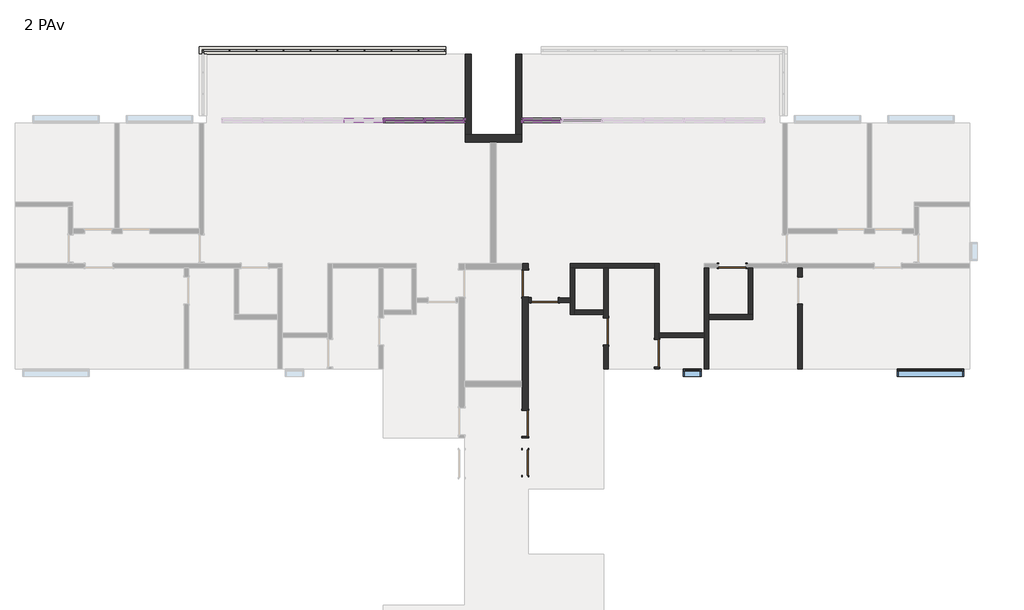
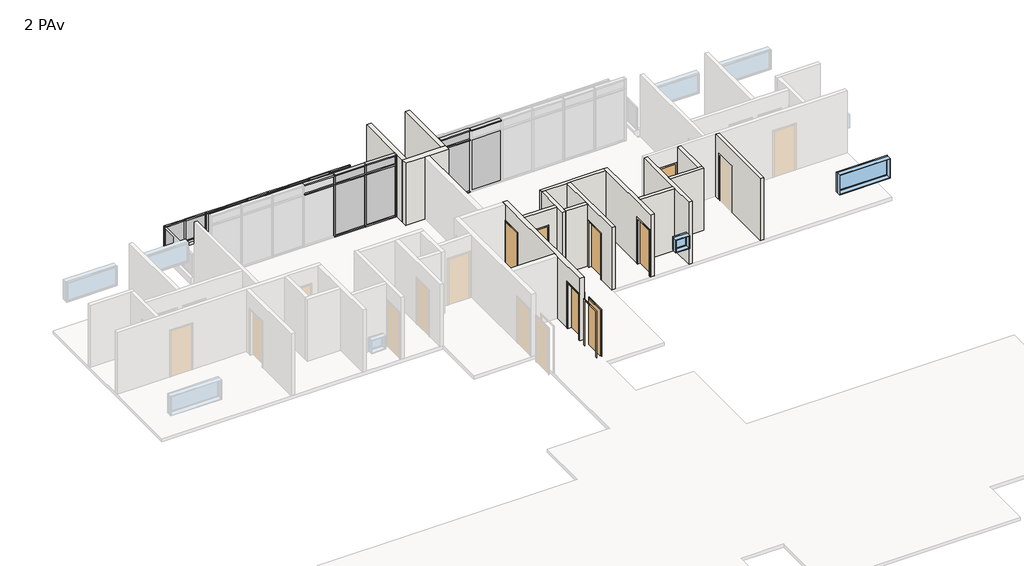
# One storey, part 5 of 6: 50 members, 17 plates, 16 walls, 7 doors, 2 windows.
"""IFC4 building model written with IfcOpenShell, lengths in millimetres."""

from ifc_helpers import new_model, si_unit, frame, origin, place, context, project, spatial, polyline, outline, extrude, faceted_brep, transform, mapped, element, save
from components import door_85_x_210_ba3adec2, door_85_x_210_7675e995, door_90_x_210_2c83007d, door_90_x_210_ee935524, door_90_x_210_565370b3, montante_retangular_50_mm_quadrado_4acded50, montante_retangular_50_mm_quadrado_237d7072, montante_retangular_50_mm_quadrado_84e40a56, montante_retangular_50_mm_quadrado_3d152aff, montante_retangular_50_mm_quadrado_a01005a4, montante_retangular_50_x_150_mm_6217edde, montante_retangular_50_x_150_mm_a22249d7, montante_retangular_50_x_150_mm_6225e4e3, montante_retangular_50_x_150_mm_662c37b1, montante_retangular_50_x_150_mm_567eccab, montante_retangular_50_x_150_mm_1ca2bba2, montante_retangular_50_x_150_mm_6abf4531, montante_retangular_50_x_150_mm_0a8c3443, painel_do_sistema_57ceaf50, painel_do_sistema_ab0ed719, painel_do_sistema_0196877a, painel_do_sistema_1ecb5f42, painel_do_sistema_49db1829, painel_do_sistema_5ea5287b, painel_do_sistema_7730abee, window_0610_x_0610_mm_b5667cc9, window_220_x_90_cea65aae

model = new_model("IFC4")

# Units and contexts
model_context = context("Model", 3, world=origin())
ifc_project = project(units=[si_unit("LENGTHUNIT", "METRE", prefix="MILLI")], contexts=[model_context])

# Site, building, storey
site = spatial("IfcSite", under=ifc_project)
building = spatial("IfcBuilding", under=site)
storey = spatial("IfcBuildingStorey", under=building, Name="2 PAv", Elevation=6000.0)

# Doors
placement = place(None, origin())
door_85_x_210_shape = door_85_x_210_ba3adec2(model_context)
element("IfcDoor", 1, ObjectType="M_Descarga simples : 85 x 210", at=placement, inside=storey, context=model_context, shape_type="MappedRepresentation", body=[
    mapped(door_85_x_210_shape, transform((23.7734258, 2728.6614625, 6000.0), x_axis=(0.0, 1.0, 0.0), y_axis=(-1.0, 0.0, 0.0), z_axis=(0.0, 0.0, 1.0))),
])
door_85_x_210_2_shape = door_85_x_210_7675e995(model_context)
element("IfcDoor", 2, ObjectType="M_Descarga simples : 85 x 210", at=placement, inside=storey, context=model_context, shape_type="MappedRepresentation", body=[
    mapped(door_85_x_210_2_shape, transform((23.7734258, 4028.6614625, 6000.0), x_axis=(0.0, -1.0, 0.0), y_axis=(1.0, 0.0, 0.0), z_axis=(0.0, 0.0, 1.0))),
])
door_90_x_210_shape = door_90_x_210_2c83007d(model_context)
element("IfcDoor", 3, ObjectType="M_Descarga simples : 90 x 210", at=placement, inside=storey, context=model_context, shape_type="MappedRepresentation", body=[
    mapped(door_90_x_210_shape, transform((23.7734258, 8673.2521762, 6000.0), x_axis=(0.0, 1.0, 0.0), y_axis=(-1.0, 0.0, 0.0), z_axis=(0.0, 0.0, 1.0))),
])
door_90_x_210_2_shape = door_90_x_210_ee935524(model_context)
element("IfcDoor", 4, ObjectType="M_Descarga simples : 90 x 210", at=placement, inside=storey, context=model_context, shape_type="MappedRepresentation", body=[
    mapped(door_90_x_210_2_shape, transform((673.7734258, 8118.6614625, 6000.0), x_axis=(-1.0, 0.0, 0.0), y_axis=(0.0, -1.0, 0.0), z_axis=(0.0, 0.0, 1.0))),
])
element("IfcDoor", 5, ObjectType="M_Descarga simples : 90 x 210", at=placement, inside=storey, context=model_context, shape_type="MappedRepresentation", body=[
    mapped(door_90_x_210_2_shape, transform((2698.7734258, 7083.6614625, 6000.0), x_axis=(0.0, -1.0, 0.0), y_axis=(1.0, 0.0, 0.0), z_axis=(0.0, 0.0, 1.0))),
])
element("IfcDoor", 6, ObjectType="M_Descarga simples : 90 x 210", at=placement, inside=storey, context=model_context, shape_type="MappedRepresentation", body=[
    mapped(door_90_x_210_2_shape, transform((4388.7734258, 6358.6614625, 6000.0), x_axis=(0.0, -1.0, 0.0), y_axis=(1.0, 0.0, 0.0), z_axis=(0.0, 0.0, 1.0))),
])
door_90_x_210_3_shape = door_90_x_210_565370b3(model_context)
element("IfcDoor", 7, ObjectType="M_Descarga simples : 90 x 210", at=placement, inside=storey, context=model_context, shape_type="MappedRepresentation", body=[
    mapped(door_90_x_210_3_shape, transform((6883.7734258, 9258.6614625, 6000.0), x_axis=(1.0, 0.0, 0.0), y_axis=(0.0, 1.0, 0.0), z_axis=(0.0, 0.0, 1.0))),
])

# Members
montante_retangular_50_mm_quadrado_shape = montante_retangular_50_mm_quadrado_4acded50(model_context)
element("IfcMember", 8, ObjectType="Montante retangular : 50 mm Quadrado", at=placement, inside=storey, context=model_context, shape_type="MappedRepresentation", body=[
    mapped(montante_retangular_50_mm_quadrado_shape, transform((-10616.2265742, 16403.6614625, 7150.0), x_axis=(0.0, 0.0, 1.0), y_axis=(0.0, 1.0, 0.0), z_axis=(-1.0, 0.0, 0.0))),
])
element("IfcMember", 9, ObjectType="Montante retangular : 50 mm Quadrado", at=placement, inside=storey, context=model_context, shape_type="MappedRepresentation", body=[
    mapped(montante_retangular_50_mm_quadrado_shape, transform((-3481.2265742, 16403.6614625, 7150.0), x_axis=(0.0, 0.0, 1.0), y_axis=(0.0, 1.0, 0.0), z_axis=(-1.0, 0.0, 0.0))),
])
montante_retangular_50_mm_quadrado_2_shape = montante_retangular_50_mm_quadrado_237d7072(model_context)
element("IfcMember", 10, ObjectType="Montante retangular : 50 mm Quadrado", at=placement, inside=storey, context=model_context, shape_type="MappedRepresentation", body=[
    mapped(montante_retangular_50_mm_quadrado_2_shape, transform((-4376.2265742, 16403.6614625, 7150.0), x_axis=(0.0, 0.0, 1.0), y_axis=(0.0, 1.0, 0.0), z_axis=(-1.0, 0.0, 0.0))),
])
element("IfcMember", 11, ObjectType="Montante retangular : 50 mm Quadrado", at=placement, inside=storey, context=model_context, shape_type="MappedRepresentation", body=[
    mapped(montante_retangular_50_mm_quadrado_2_shape, transform((-5271.2265742, 16403.6614625, 7150.0), x_axis=(0.0, 0.0, 1.0), y_axis=(0.0, 1.0, 0.0), z_axis=(-1.0, 0.0, 0.0))),
])
element("IfcMember", 12, ObjectType="Montante retangular : 50 mm Quadrado", at=placement, inside=storey, context=model_context, shape_type="MappedRepresentation", body=[
    mapped(montante_retangular_50_mm_quadrado_2_shape, transform((-6166.2265742, 16403.6614625, 7150.0), x_axis=(0.0, 0.0, 1.0), y_axis=(0.0, 1.0, 0.0), z_axis=(-1.0, 0.0, 0.0))),
])
element("IfcMember", 13, ObjectType="Montante retangular : 50 mm Quadrado", at=placement, inside=storey, context=model_context, shape_type="MappedRepresentation", body=[
    mapped(montante_retangular_50_mm_quadrado_2_shape, transform((-7061.2265742, 16403.6614625, 7150.0), x_axis=(0.0, 0.0, 1.0), y_axis=(0.0, 1.0, 0.0), z_axis=(-1.0, 0.0, 0.0))),
])
element("IfcMember", 14, ObjectType="Montante retangular : 50 mm Quadrado", at=placement, inside=storey, context=model_context, shape_type="MappedRepresentation", body=[
    mapped(montante_retangular_50_mm_quadrado_2_shape, transform((-7956.2265742, 16403.6614625, 7150.0), x_axis=(0.0, 0.0, 1.0), y_axis=(0.0, 1.0, 0.0), z_axis=(-1.0, 0.0, 0.0))),
])
element("IfcMember", 15, ObjectType="Montante retangular : 50 mm Quadrado", at=placement, inside=storey, context=model_context, shape_type="MappedRepresentation", body=[
    mapped(montante_retangular_50_mm_quadrado_2_shape, transform((-8851.2265742, 16403.6614625, 7150.0), x_axis=(0.0, 0.0, 1.0), y_axis=(0.0, 1.0, 0.0), z_axis=(-1.0, 0.0, 0.0))),
])
element("IfcMember", 16, ObjectType="Montante retangular : 50 mm Quadrado", at=placement, inside=storey, context=model_context, shape_type="MappedRepresentation", body=[
    mapped(montante_retangular_50_mm_quadrado_2_shape, transform((-9746.2265742, 16403.6614625, 7150.0), x_axis=(0.0, 0.0, 1.0), y_axis=(0.0, 1.0, 0.0), z_axis=(-1.0, 0.0, 0.0))),
])
element("IfcMember", 17, ObjectType="Montante retangular : 50 mm Quadrado", at=placement, inside=storey, context=model_context, shape_type="MappedRepresentation", body=[
    mapped(montante_retangular_50_mm_quadrado_shape, transform((-2661.2265742, 16403.6614625, 6150.0), x_axis=(0.0, 0.0, -1.0), y_axis=(0.0, 1.0, 0.0), z_axis=(1.0, 0.0, 0.0))),
])
element("IfcMember", 18, ObjectType="Montante retangular : 50 mm Quadrado", at=placement, inside=storey, context=model_context, shape_type="MappedRepresentation", body=[
    mapped(montante_retangular_50_mm_quadrado_shape, transform((-9796.2265742, 16403.6614625, 6150.0), x_axis=(0.0, 0.0, -1.0), y_axis=(0.0, 1.0, 0.0), z_axis=(1.0, 0.0, 0.0))),
])
element("IfcMember", 19, ObjectType="Montante retangular : 50 mm Quadrado", at=placement, inside=storey, context=model_context, shape_type="MappedRepresentation", body=[
    mapped(montante_retangular_50_mm_quadrado_2_shape, transform((-3531.2265742, 16403.6614625, 6150.0), x_axis=(0.0, 0.0, -1.0), y_axis=(0.0, 1.0, 0.0), z_axis=(1.0, 0.0, 0.0))),
])
element("IfcMember", 20, ObjectType="Montante retangular : 50 mm Quadrado", at=placement, inside=storey, context=model_context, shape_type="MappedRepresentation", body=[
    mapped(montante_retangular_50_mm_quadrado_2_shape, transform((-4426.2265742, 16403.6614625, 6150.0), x_axis=(0.0, 0.0, -1.0), y_axis=(0.0, 1.0, 0.0), z_axis=(1.0, 0.0, 0.0))),
])
element("IfcMember", 21, ObjectType="Montante retangular : 50 mm Quadrado", at=placement, inside=storey, context=model_context, shape_type="MappedRepresentation", body=[
    mapped(montante_retangular_50_mm_quadrado_2_shape, transform((-5321.2265742, 16403.6614625, 6150.0), x_axis=(0.0, 0.0, -1.0), y_axis=(0.0, 1.0, 0.0), z_axis=(1.0, 0.0, 0.0))),
])
element("IfcMember", 22, ObjectType="Montante retangular : 50 mm Quadrado", at=placement, inside=storey, context=model_context, shape_type="MappedRepresentation", body=[
    mapped(montante_retangular_50_mm_quadrado_2_shape, transform((-6216.2265742, 16403.6614625, 6150.0), x_axis=(0.0, 0.0, -1.0), y_axis=(0.0, 1.0, 0.0), z_axis=(1.0, 0.0, 0.0))),
])
element("IfcMember", 23, ObjectType="Montante retangular : 50 mm Quadrado", at=placement, inside=storey, context=model_context, shape_type="MappedRepresentation", body=[
    mapped(montante_retangular_50_mm_quadrado_2_shape, transform((-7111.2265742, 16403.6614625, 6150.0), x_axis=(0.0, 0.0, -1.0), y_axis=(0.0, 1.0, 0.0), z_axis=(1.0, 0.0, 0.0))),
])
element("IfcMember", 24, ObjectType="Montante retangular : 50 mm Quadrado", at=placement, inside=storey, context=model_context, shape_type="MappedRepresentation", body=[
    mapped(montante_retangular_50_mm_quadrado_2_shape, transform((-8006.2265742, 16403.6614625, 6150.0), x_axis=(0.0, 0.0, -1.0), y_axis=(0.0, 1.0, 0.0), z_axis=(1.0, 0.0, 0.0))),
])
element("IfcMember", 25, ObjectType="Montante retangular : 50 mm Quadrado", at=placement, inside=storey, context=model_context, shape_type="MappedRepresentation", body=[
    mapped(montante_retangular_50_mm_quadrado_2_shape, transform((-8901.2265742, 16403.6614625, 6150.0), x_axis=(0.0, 0.0, -1.0), y_axis=(0.0, 1.0, 0.0), z_axis=(1.0, 0.0, 0.0))),
])
montante_retangular_50_mm_quadrado_3_shape = montante_retangular_50_mm_quadrado_84e40a56(model_context)
element("IfcMember", 26, ObjectType="Montante retangular : 50 mm Quadrado", at=placement, inside=storey, context=model_context, shape_type="MappedRepresentation", body=[
    mapped(montante_retangular_50_mm_quadrado_3_shape, transform((-3506.2265742, 16403.6614625, 6150.0), x_axis=(-1.0, 0.0, 0.0), y_axis=(0.0, 1.0, 0.0), z_axis=(0.0, 0.0, -1.0))),
])
element("IfcMember", 27, ObjectType="Montante retangular : 50 mm Quadrado", at=placement, inside=storey, context=model_context, shape_type="MappedRepresentation", body=[
    mapped(montante_retangular_50_mm_quadrado_3_shape, transform((-4401.2265742, 16403.6614625, 6150.0), x_axis=(-1.0, 0.0, 0.0), y_axis=(0.0, 1.0, 0.0), z_axis=(0.0, 0.0, -1.0))),
])
element("IfcMember", 28, ObjectType="Montante retangular : 50 mm Quadrado", at=placement, inside=storey, context=model_context, shape_type="MappedRepresentation", body=[
    mapped(montante_retangular_50_mm_quadrado_3_shape, transform((-5296.2265742, 16403.6614625, 6150.0), x_axis=(-1.0, 0.0, 0.0), y_axis=(0.0, 1.0, 0.0), z_axis=(0.0, 0.0, -1.0))),
])
element("IfcMember", 29, ObjectType="Montante retangular : 50 mm Quadrado", at=placement, inside=storey, context=model_context, shape_type="MappedRepresentation", body=[
    mapped(montante_retangular_50_mm_quadrado_3_shape, transform((-6191.2265742, 16403.6614625, 6150.0), x_axis=(-1.0, 0.0, 0.0), y_axis=(0.0, 1.0, 0.0), z_axis=(0.0, 0.0, -1.0))),
])
element("IfcMember", 30, ObjectType="Montante retangular : 50 mm Quadrado", at=placement, inside=storey, context=model_context, shape_type="MappedRepresentation", body=[
    mapped(montante_retangular_50_mm_quadrado_3_shape, transform((-7086.2265742, 16403.6614625, 6150.0), x_axis=(-1.0, 0.0, 0.0), y_axis=(0.0, 1.0, 0.0), z_axis=(0.0, 0.0, -1.0))),
])
element("IfcMember", 31, ObjectType="Montante retangular : 50 mm Quadrado", at=placement, inside=storey, context=model_context, shape_type="MappedRepresentation", body=[
    mapped(montante_retangular_50_mm_quadrado_3_shape, transform((-7981.2265742, 16403.6614625, 6150.0), x_axis=(-1.0, 0.0, 0.0), y_axis=(0.0, 1.0, 0.0), z_axis=(0.0, 0.0, -1.0))),
])
element("IfcMember", 32, ObjectType="Montante retangular : 50 mm Quadrado", at=placement, inside=storey, context=model_context, shape_type="MappedRepresentation", body=[
    mapped(montante_retangular_50_mm_quadrado_3_shape, transform((-8876.2265742, 16403.6614625, 6150.0), x_axis=(-1.0, 0.0, 0.0), y_axis=(0.0, 1.0, 0.0), z_axis=(0.0, 0.0, -1.0))),
])
element("IfcMember", 33, ObjectType="Montante retangular : 50 mm Quadrado", at=placement, inside=storey, context=model_context, shape_type="MappedRepresentation", body=[
    mapped(montante_retangular_50_mm_quadrado_3_shape, transform((-9771.2265742, 16403.6614625, 6150.0), x_axis=(-1.0, 0.0, 0.0), y_axis=(0.0, 1.0, 0.0), z_axis=(0.0, 0.0, -1.0))),
])
montante_retangular_50_mm_quadrado_4_shape = montante_retangular_50_mm_quadrado_3d152aff(model_context)
element("IfcMember", 34, ObjectType="Montante retangular : 50 mm Quadrado", at=placement, inside=storey, context=model_context, shape_type="MappedRepresentation", body=[
    mapped(montante_retangular_50_mm_quadrado_4_shape, transform((-10666.2265742, 16403.6614625, 6150.0), x_axis=(-1.0, 0.0, 0.0), y_axis=(0.0, 1.0, 0.0), z_axis=(0.0, 0.0, -1.0))),
])
element("IfcMember", 35, ObjectType="Montante retangular : 50 mm Quadrado", at=placement, inside=storey, context=model_context, shape_type="MappedRepresentation", body=[
    mapped(montante_retangular_50_mm_quadrado_4_shape, transform((-10641.2265742, 16378.6614625, 7150.0), x_axis=(0.0, 1.0, 0.0), y_axis=(-1.0, 0.0, 0.0), z_axis=(0.0, 0.0, 1.0))),
])
element("IfcMember", 36, ObjectType="Montante retangular : 50 mm Quadrado", at=placement, inside=storey, context=model_context, shape_type="MappedRepresentation", body=[
    mapped(montante_retangular_50_mm_quadrado_4_shape, transform((-2611.2265742, 16403.6614625, 7150.0), x_axis=(1.0, 0.0, 0.0), y_axis=(0.0, 1.0, 0.0), z_axis=(0.0, 0.0, 1.0))),
])
montante_retangular_50_mm_quadrado_5_shape = montante_retangular_50_mm_quadrado_a01005a4(model_context)
element("IfcMember", 37, ObjectType="Montante retangular : 50 mm Quadrado", at=placement, inside=storey, context=model_context, shape_type="MappedRepresentation", body=[
    mapped(montante_retangular_50_mm_quadrado_5_shape, transform((-10641.2265742, 16328.6614625, 6150.0), x_axis=(0.0, 0.0, -1.0), y_axis=(-1.0, 0.0, 0.0), z_axis=(0.0, 1.0, 0.0))),
])
montante_retangular_50_x_150_mm_shape = montante_retangular_50_x_150_mm_6217edde(model_context)
element("IfcMember", 38, ObjectType="Montante retangular : 50 x 150 mm", at=placement, inside=storey, context=model_context, shape_type="MappedRepresentation", body=[
    mapped(montante_retangular_50_x_150_mm_shape, transform((-41.2265742, 14083.6614625, 8850.0), x_axis=(0.0, 0.0, 1.0), y_axis=(0.0, 1.0, 0.0), z_axis=(-1.0, 0.0, 0.0))),
])
montante_retangular_50_x_150_mm_2_shape = montante_retangular_50_x_150_mm_a22249d7(model_context)
element("IfcMember", 39, ObjectType="Montante retangular : 50 x 150 mm", at=placement, inside=storey, context=model_context, shape_type="MappedRepresentation", body=[
    mapped(montante_retangular_50_x_150_mm_2_shape, transform((1277.9400925, 14083.6614625, 8850.0), x_axis=(0.0, 0.0, 1.0), y_axis=(0.0, 1.0, 0.0), z_axis=(-1.0, 0.0, 0.0))),
])
element("IfcMember", 40, ObjectType="Montante retangular : 50 x 150 mm", at=placement, inside=storey, context=model_context, shape_type="MappedRepresentation", body=[
    mapped(montante_retangular_50_x_150_mm_shape, transform((1227.9400925, 14083.6614625, 6000.0), x_axis=(0.0, 0.0, -1.0), y_axis=(0.0, 1.0, 0.0), z_axis=(1.0, 0.0, 0.0))),
])
element("IfcMember", 41, ObjectType="Montante retangular : 50 x 150 mm", at=placement, inside=storey, context=model_context, shape_type="MappedRepresentation", body=[
    mapped(montante_retangular_50_x_150_mm_shape, transform((-2011.2265742, 14083.6614625, 8850.0), x_axis=(0.0, 0.0, 1.0), y_axis=(0.0, -1.0, 0.0), z_axis=(1.0, 0.0, 0.0))),
])
element("IfcMember", 42, ObjectType="Montante retangular : 50 x 150 mm", at=placement, inside=storey, context=model_context, shape_type="MappedRepresentation", body=[
    mapped(montante_retangular_50_x_150_mm_2_shape, transform((-4674.5599075, 14083.6614625, 8850.0), x_axis=(0.0, 0.0, 1.0), y_axis=(0.0, -1.0, 0.0), z_axis=(1.0, 0.0, 0.0))),
])
element("IfcMember", 43, ObjectType="Montante retangular : 50 x 150 mm", at=placement, inside=storey, context=model_context, shape_type="MappedRepresentation", body=[
    mapped(montante_retangular_50_x_150_mm_2_shape, transform((-3330.3932408, 14083.6614625, 8850.0), x_axis=(0.0, 0.0, 1.0), y_axis=(0.0, -1.0, 0.0), z_axis=(1.0, 0.0, 0.0))),
])
element("IfcMember", 44, ObjectType="Montante retangular : 50 x 150 mm", at=placement, inside=storey, context=model_context, shape_type="MappedRepresentation", body=[
    mapped(montante_retangular_50_x_150_mm_shape, transform((-3280.3932408, 14083.6614625, 6000.0), x_axis=(0.0, 0.0, -1.0), y_axis=(0.0, -1.0, 0.0), z_axis=(-1.0, 0.0, 0.0))),
])
element("IfcMember", 45, ObjectType="Montante retangular : 50 x 150 mm", at=placement, inside=storey, context=model_context, shape_type="MappedRepresentation", body=[
    mapped(montante_retangular_50_x_150_mm_2_shape, transform((-4624.5599075, 14083.6614625, 6000.0), x_axis=(0.0, 0.0, -1.0), y_axis=(0.0, -1.0, 0.0), z_axis=(-1.0, 0.0, 0.0))),
])
montante_retangular_50_x_150_mm_3_shape = montante_retangular_50_x_150_mm_6225e4e3(model_context)
element("IfcMember", 46, ObjectType="Montante retangular : 50 x 150 mm", at=placement, inside=storey, context=model_context, shape_type="MappedRepresentation", body=[
    mapped(montante_retangular_50_x_150_mm_3_shape, transform((-4649.5599075, 14083.6614625, 6000.0), x_axis=(1.0, 0.0, 0.0), y_axis=(0.0, -1.0, 0.0), z_axis=(0.0, 0.0, -1.0))),
])
element("IfcMember", 47, ObjectType="Montante retangular : 50 x 150 mm", at=placement, inside=storey, context=model_context, shape_type="MappedRepresentation", body=[
    mapped(montante_retangular_50_x_150_mm_3_shape, transform((-3305.3932408, 14083.6614625, 6000.0), x_axis=(1.0, 0.0, 0.0), y_axis=(0.0, -1.0, 0.0), z_axis=(0.0, 0.0, -1.0))),
])
montante_retangular_50_x_150_mm_4_shape = montante_retangular_50_x_150_mm_662c37b1(model_context)
element("IfcMember", 48, ObjectType="Montante retangular : 50 x 150 mm", at=placement, inside=storey, context=model_context, shape_type="MappedRepresentation", body=[
    mapped(montante_retangular_50_x_150_mm_4_shape, transform((-1961.2265742, 14083.6614625, 6000.0), x_axis=(1.0, 0.0, 0.0), y_axis=(0.0, -1.0, 0.0), z_axis=(0.0, 0.0, -1.0))),
])
element("IfcMember", 49, ObjectType="Montante retangular : 50 x 150 mm", at=placement, inside=storey, context=model_context, shape_type="MappedRepresentation", body=[
    mapped(montante_retangular_50_x_150_mm_4_shape, transform((-91.2265742, 14083.6614625, 6000.0), x_axis=(-1.0, 0.0, 0.0), y_axis=(0.0, 1.0, 0.0), z_axis=(0.0, 0.0, -1.0))),
])
montante_retangular_50_x_150_mm_5_shape = montante_retangular_50_x_150_mm_567eccab(model_context)
element("IfcMember", 50, ObjectType="Montante retangular : 50 x 150 mm", at=placement, inside=storey, context=model_context, shape_type="MappedRepresentation", body=[
    mapped(montante_retangular_50_x_150_mm_5_shape, transform((-4649.5599075, 14083.6614625, 8400.0), x_axis=(1.0, 0.0, 0.0), y_axis=(0.0, -1.0, 0.0), z_axis=(0.0, 0.0, -1.0))),
])
element("IfcMember", 51, ObjectType="Montante retangular : 50 x 150 mm", at=placement, inside=storey, context=model_context, shape_type="MappedRepresentation", body=[
    mapped(montante_retangular_50_x_150_mm_5_shape, transform((-3305.3932408, 14083.6614625, 8400.0), x_axis=(1.0, 0.0, 0.0), y_axis=(0.0, -1.0, 0.0), z_axis=(0.0, 0.0, -1.0))),
])
montante_retangular_50_x_150_mm_6_shape = montante_retangular_50_x_150_mm_1ca2bba2(model_context)
element("IfcMember", 52, ObjectType="Montante retangular : 50 x 150 mm", at=placement, inside=storey, context=model_context, shape_type="MappedRepresentation", body=[
    mapped(montante_retangular_50_x_150_mm_6_shape, transform((-2011.2265742, 14083.6614625, 8400.0), x_axis=(0.0, 0.0, 1.0), y_axis=(0.0, -1.0, 0.0), z_axis=(1.0, 0.0, 0.0))),
])
montante_retangular_50_x_150_mm_7_shape = montante_retangular_50_x_150_mm_6abf4531(model_context)
element("IfcMember", 53, ObjectType="Montante retangular : 50 x 150 mm", at=placement, inside=storey, context=model_context, shape_type="MappedRepresentation", body=[
    mapped(montante_retangular_50_x_150_mm_7_shape, transform((-4674.5599075, 14083.6614625, 8400.0), x_axis=(0.0, 0.0, 1.0), y_axis=(0.0, -1.0, 0.0), z_axis=(1.0, 0.0, 0.0))),
])
element("IfcMember", 54, ObjectType="Montante retangular : 50 x 150 mm", at=placement, inside=storey, context=model_context, shape_type="MappedRepresentation", body=[
    mapped(montante_retangular_50_x_150_mm_7_shape, transform((-3330.3932408, 14083.6614625, 8400.0), x_axis=(0.0, 0.0, 1.0), y_axis=(0.0, -1.0, 0.0), z_axis=(1.0, 0.0, 0.0))),
])
element("IfcMember", 55, ObjectType="Montante retangular : 50 x 150 mm", at=placement, inside=storey, context=model_context, shape_type="MappedRepresentation", body=[
    mapped(montante_retangular_50_x_150_mm_6_shape, transform((-41.2265742, 14083.6614625, 8400.0), x_axis=(0.0, 0.0, 1.0), y_axis=(0.0, 1.0, 0.0), z_axis=(-1.0, 0.0, 0.0))),
])
montante_retangular_50_x_150_mm_8_shape = montante_retangular_50_x_150_mm_0a8c3443(model_context)
element("IfcMember", 56, ObjectType="Montante retangular : 50 x 150 mm", at=placement, inside=storey, context=model_context, shape_type="MappedRepresentation", body=[
    mapped(montante_retangular_50_x_150_mm_8_shape, transform((-91.2265742, 14083.6614625, 8400.0), x_axis=(-1.0, 0.0, 0.0), y_axis=(0.0, 1.0, 0.0), z_axis=(0.0, 0.0, -1.0))),
])
element("IfcMember", 57, ObjectType="Montante retangular : 50 x 150 mm", at=placement, inside=storey, context=model_context, shape_type="MappedRepresentation", body=[
    mapped(montante_retangular_50_x_150_mm_8_shape, transform((-1961.2265742, 14083.6614625, 8400.0), x_axis=(1.0, 0.0, 0.0), y_axis=(0.0, -1.0, 0.0), z_axis=(0.0, 0.0, -1.0))),
])

# Plates
painel_do_sistema_shape = painel_do_sistema_57ceaf50(model_context)
element("IfcPlate", 58, ObjectType="Painel do sistema : Envidraçado", at=placement, inside=storey, context=model_context, shape_type="MappedRepresentation", body=[
    mapped(painel_do_sistema_shape, transform((-3071.2265742, 16403.6614625, 6200.0), x_axis=(-1.0, 0.0, 0.0), y_axis=(0.0, -1.0, 0.0), z_axis=(0.0, 0.0, 1.0))),
])
element("IfcPlate", 59, ObjectType="Painel do sistema : Envidraçado", at=placement, inside=storey, context=model_context, shape_type="MappedRepresentation", body=[
    mapped(painel_do_sistema_shape, transform((-10206.2265742, 16403.6614625, 6200.0), x_axis=(-1.0, 0.0, 0.0), y_axis=(0.0, -1.0, 0.0), z_axis=(0.0, 0.0, 1.0))),
])
painel_do_sistema_2_shape = painel_do_sistema_ab0ed719(model_context)
element("IfcPlate", 60, ObjectType="Painel do sistema : Envidraçado", at=placement, inside=storey, context=model_context, shape_type="MappedRepresentation", body=[
    mapped(painel_do_sistema_2_shape, transform((-3953.7265742, 16403.6614625, 6200.0), x_axis=(-1.0, 0.0, 0.0), y_axis=(0.0, -1.0, 0.0), z_axis=(0.0, 0.0, 1.0))),
])
element("IfcPlate", 61, ObjectType="Painel do sistema : Envidraçado", at=placement, inside=storey, context=model_context, shape_type="MappedRepresentation", body=[
    mapped(painel_do_sistema_2_shape, transform((-4848.7265742, 16403.6614625, 6200.0), x_axis=(-1.0, 0.0, 0.0), y_axis=(0.0, -1.0, 0.0), z_axis=(0.0, 0.0, 1.0))),
])
element("IfcPlate", 62, ObjectType="Painel do sistema : Envidraçado", at=placement, inside=storey, context=model_context, shape_type="MappedRepresentation", body=[
    mapped(painel_do_sistema_2_shape, transform((-5743.7265742, 16403.6614625, 6200.0), x_axis=(-1.0, 0.0, 0.0), y_axis=(0.0, -1.0, 0.0), z_axis=(0.0, 0.0, 1.0))),
])
element("IfcPlate", 63, ObjectType="Painel do sistema : Envidraçado", at=placement, inside=storey, context=model_context, shape_type="MappedRepresentation", body=[
    mapped(painel_do_sistema_2_shape, transform((-6638.7265742, 16403.6614625, 6200.0), x_axis=(-1.0, 0.0, 0.0), y_axis=(0.0, -1.0, 0.0), z_axis=(0.0, 0.0, 1.0))),
])
element("IfcPlate", 64, ObjectType="Painel do sistema : Envidraçado", at=placement, inside=storey, context=model_context, shape_type="MappedRepresentation", body=[
    mapped(painel_do_sistema_2_shape, transform((-7533.7265742, 16403.6614625, 6200.0), x_axis=(-1.0, 0.0, 0.0), y_axis=(0.0, -1.0, 0.0), z_axis=(0.0, 0.0, 1.0))),
])
element("IfcPlate", 65, ObjectType="Painel do sistema : Envidraçado", at=placement, inside=storey, context=model_context, shape_type="MappedRepresentation", body=[
    mapped(painel_do_sistema_2_shape, transform((-8428.7265742, 16403.6614625, 6200.0), x_axis=(-1.0, 0.0, 0.0), y_axis=(0.0, -1.0, 0.0), z_axis=(0.0, 0.0, 1.0))),
])
element("IfcPlate", 66, ObjectType="Painel do sistema : Envidraçado", at=placement, inside=storey, context=model_context, shape_type="MappedRepresentation", body=[
    mapped(painel_do_sistema_2_shape, transform((-9323.7265742, 16403.6614625, 6200.0), x_axis=(-1.0, 0.0, 0.0), y_axis=(0.0, -1.0, 0.0), z_axis=(0.0, 0.0, 1.0))),
])
painel_do_sistema_3_shape = painel_do_sistema_0196877a(model_context)
element("IfcPlate", 67, ObjectType="Painel do sistema : Envidraçado", at=placement, inside=storey, context=model_context, shape_type="MappedRepresentation", body=[
    mapped(painel_do_sistema_3_shape, transform((-10641.2265742, 16008.6614625, 6200.0), x_axis=(0.0, -1.0, 0.0), y_axis=(1.0, 0.0, 0.0), z_axis=(0.0, 0.0, 1.0))),
])
painel_do_sistema_4_shape = painel_do_sistema_1ecb5f42(model_context)
element("IfcPlate", 68, ObjectType="Painel do sistema : Envidraçado", at=placement, inside=storey, context=model_context, shape_type="MappedRepresentation", body=[
    mapped(painel_do_sistema_4_shape, transform((-2645.8099075, 14083.6614625, 6050.0), x_axis=(1.0, 0.0, 0.0), y_axis=(0.0, 1.0, 0.0), z_axis=(0.0, 0.0, 1.0))),
])
painel_do_sistema_5_shape = painel_do_sistema_49db1829(model_context)
element("IfcPlate", 69, ObjectType="Painel do sistema : Envidraçado", at=placement, inside=storey, context=model_context, shape_type="MappedRepresentation", body=[
    mapped(painel_do_sistema_5_shape, transform((-3977.4765742, 14083.6614625, 6050.0), x_axis=(1.0, 0.0, 0.0), y_axis=(0.0, 1.0, 0.0), z_axis=(0.0, 0.0, 1.0))),
])
painel_do_sistema_6_shape = painel_do_sistema_5ea5287b(model_context)
element("IfcPlate", 70, ObjectType="Painel do sistema : Envidraçado", at=placement, inside=storey, context=model_context, shape_type="MappedRepresentation", body=[
    mapped(painel_do_sistema_6_shape, transform((-2645.8099075, 14083.6614625, 8425.0), x_axis=(1.0, 0.0, 0.0), y_axis=(0.0, 1.0, 0.0), z_axis=(0.0, 0.0, 1.0))),
])
painel_do_sistema_7_shape = painel_do_sistema_7730abee(model_context)
element("IfcPlate", 71, ObjectType="Painel do sistema : Envidraçado", at=placement, inside=storey, context=model_context, shape_type="MappedRepresentation", body=[
    mapped(painel_do_sistema_7_shape, transform((-3977.4765742, 14083.6614625, 8425.0), x_axis=(1.0, 0.0, 0.0), y_axis=(0.0, 1.0, 0.0), z_axis=(0.0, 0.0, 1.0))),
])
element("IfcPlate", 72, ObjectType="Painel do sistema : Envidraçado", at=placement, inside=storey, context=model_context, shape_type="MappedRepresentation", body=[
    mapped(painel_do_sistema_4_shape, transform((593.3567592, 14083.6614625, 6050.0), x_axis=(-1.0, 0.0, 0.0), y_axis=(0.0, -1.0, 0.0), z_axis=(0.0, 0.0, 1.0))),
])
element("IfcPlate", 73, ObjectType="Painel do sistema : Envidraçado", at=placement, inside=storey, context=model_context, shape_type="MappedRepresentation", body=[
    mapped(painel_do_sistema_5_shape, transform((1925.0234258, 14083.6614625, 6050.0), x_axis=(-1.0, 0.0, 0.0), y_axis=(0.0, -1.0, 0.0), z_axis=(0.0, 0.0, 1.0))),
])
element("IfcPlate", 74, ObjectType="Painel do sistema : Envidraçado", at=placement, inside=storey, context=model_context, shape_type="MappedRepresentation", body=[
    mapped(painel_do_sistema_6_shape, transform((593.3567592, 14083.6614625, 8425.0), x_axis=(-1.0, 0.0, 0.0), y_axis=(0.0, -1.0, 0.0), z_axis=(0.0, 0.0, 1.0))),
])

# Walls
element("IfcWall", 75, ObjectType="Exeterna 25", at=placement, inside=storey, context=model_context, shape_type="Brep", body=[
    faceted_brep([(-2611.2265742, 16528.6614625, 5850.0), (-10766.2265742, 16528.6614625, 5850.0), (-10766.2265742, 16528.6614625, 6150.0), (-2611.2265742, 16528.6614625, 6150.0), (-2611.2265742, 16278.6614625, 5850.0), (-2611.2265742, 16278.6614625, 6150.0), (-10516.2265742, 16278.6614625, 6150.0), (-10766.2265742, 16278.6614625, 6150.0), (-10766.2265742, 16278.6614625, 5850.0), (-10516.2265742, 16278.6614625, 5850.0)], [[[0, 1, 2, 3]], [[4, 5, 6, 7, 8, 9]], [[1, 0, 4, 9, 8]], [[3, 2, 7, 6, 5]], [[0, 3, 5, 4]], [[2, 1, 8, 7]]]),
])
element("IfcWall", 76, ObjectType="Exeterna 25", at=placement, inside=storey, context=model_context, shape_type="Brep", body=[
    faceted_brep([(-1961.2265742, 13353.6614625, 6000.0), (-1126.2265742, 13353.6614625, 6000.0), (-926.2265742, 13353.6614625, 6000.0), (-91.2265742, 13353.6614625, 6000.0), (-91.2265742, 13353.6614625, 8850.0), (-926.2265742, 13353.6614625, 8850.0), (-1126.2265742, 13353.6614625, 8850.0), (-1961.2265742, 13353.6614625, 8850.0), (-1961.2265742, 13603.6614625, 6000.0), (-1961.2265742, 13603.6614625, 8850.0), (-1761.2265742, 13603.6614625, 8850.0), (-291.2265742, 13603.6614625, 8850.0), (-91.2265742, 13603.6614625, 8850.0), (-91.2265742, 13603.6614625, 6000.0), (-291.2265742, 13603.6614625, 6000.0), (-1761.2265742, 13603.6614625, 6000.0)], [[[0, 1, 2, 3, 4, 5, 6, 7]], [[8, 9, 10, 11, 12, 13, 14, 15]], [[3, 2, 1, 0, 8, 15, 14, 13]], [[7, 6, 5, 4, 12, 11, 10, 9]], [[0, 7, 9, 8]], [[4, 3, 13, 12]]]),
])
element("IfcWall", 77, ObjectType="Interna 15", at=placement, inside=storey, context=model_context, shape_type="Brep", body=[
    faceted_brep([(5963.7734258, 9183.6614625, 6000.0), (5963.7734258, 7033.6614625, 6000.0), (5963.7734258, 6883.6614625, 6000.0), (5963.7734258, 5833.6614625, 6000.0), (5963.7734258, 5833.6614625, 8850.0), (5963.7734258, 6883.6614625, 8850.0), (5963.7734258, 7033.6614625, 8850.0), (5963.7734258, 9183.6614625, 8850.0), (6113.7734258, 9183.6614625, 6000.0), (6113.7734258, 9183.6614625, 8850.0), (6113.7734258, 7633.6614625, 8850.0), (6113.7734258, 7483.6614625, 8850.0), (6113.7734258, 5833.6614625, 8850.0), (6113.7734258, 5833.6614625, 6000.0), (6113.7734258, 7483.6614625, 6000.0), (6113.7734258, 7633.6614625, 6000.0)], [[[0, 1, 2, 3, 4, 5, 6, 7]], [[8, 9, 10, 11, 12, 13, 14, 15]], [[3, 2, 1, 0, 8, 15, 14, 13]], [[7, 6, 5, 4, 12, 11, 10, 9]], [[0, 7, 9, 8]], [[4, 3, 13, 12]]]),
])
element("IfcWall", 78, ObjectType="Interna 15", at=placement, inside=storey, context=model_context, shape_type="Brep", body=[
    faceted_brep([(6113.7734258, 7483.6614625, 6000.0), (7563.7734258, 7483.6614625, 6000.0), (7563.7734258, 7483.6614625, 8850.0), (6113.7734258, 7483.6614625, 8850.0), (6113.7734258, 7633.6614625, 6000.0), (6113.7734258, 7633.6614625, 8850.0), (7413.7734258, 7633.6614625, 8850.0), (7563.7734258, 7633.6614625, 8850.0), (7563.7734258, 7633.6614625, 6000.0), (7413.7734258, 7633.6614625, 6000.0)], [[[0, 1, 2, 3]], [[4, 5, 6, 7, 8, 9]], [[1, 0, 4, 9, 8]], [[3, 2, 7, 6, 5]], [[0, 3, 5, 4]], [[2, 1, 8, 7]]]),
])
element("IfcWall", 79, ObjectType="Interna 15", at=placement, inside=storey, context=model_context, shape_type="SweptSolid", body=[
    extrude(outline(polyline([(7563.7734258, 9183.6614625), (7563.7734258, 7633.6614625), (7413.7734258, 7633.6614625), (7413.7734258, 9183.6614625), (7563.7734258, 9183.6614625)])), frame((0.0, 0.0, 6000.0), z_axis=(0.0, 0.0, 1.0), x_axis=(1.0, 0.0, 0.0)), (0.0, 0.0, 1.0), 2850.0),
])
element("IfcWall", 80, ObjectType="Interna 15", at=placement, inside=storey, context=model_context, shape_type="SweptSolid", body=[
    extrude(outline(polyline([(9183.6614625, 6000.0), (8883.6614625, 6000.0), (8883.6614625, 8100.0), (7983.6614625, 8100.0), (7983.6614625, 6000.0), (5833.6614625, 6000.0), (5833.6614625, 8850.0), (9183.6614625, 8850.0), (9183.6614625, 6000.0)])), frame((9063.7734258, 0.0, 0.0), z_axis=(1.0, 0.0, 0.0), x_axis=(0.0, 1.0, 0.0)), (0.0, 0.0, 1.0), 150.0),
])
element("IfcWall", 81, ObjectType="Interna 15", at=placement, inside=storey, context=model_context, shape_type="SweptSolid", body=[
    extrude(outline(polyline([(4463.7734258, 7033.6614625), (5963.7734258, 7033.6614625), (5963.7734258, 6883.6614625), (4463.7734258, 6883.6614625), (4463.7734258, 7033.6614625)])), frame((0.0, 0.0, 6000.0), z_axis=(0.0, 0.0, 1.0), x_axis=(1.0, 0.0, 0.0)), (0.0, 0.0, 1.0), 2850.0),
])
element("IfcWall", 82, ObjectType="Interna 15", at=placement, inside=storey, context=model_context, shape_type="Brep", body=[
    faceted_brep([(4463.7734258, 5833.6614625, 6000.0), (4463.7734258, 5908.6614625, 6000.0), (4463.7734258, 5908.6614625, 8100.0), (4463.7734258, 6808.6614625, 8100.0), (4463.7734258, 6808.6614625, 6000.0), (4463.7734258, 6883.6614625, 6000.0), (4463.7734258, 7033.6614625, 6000.0), (4463.7734258, 9333.6614625, 6000.0), (4463.7734258, 9333.6614625, 8850.0), (4463.7734258, 7033.6614625, 8850.0), (4463.7734258, 6883.6614625, 8850.0), (4463.7734258, 5833.6614625, 8850.0), (4313.7734258, 5908.6614625, 8100.0), (4313.7734258, 5908.6614625, 6000.0), (4313.7734258, 5833.6614625, 6000.0), (4313.7734258, 5833.6614625, 8850.0), (4313.7734258, 9183.6614625, 8850.0), (4313.7734258, 9333.6614625, 8850.0), (4313.7734258, 9333.6614625, 6000.0), (4313.7734258, 9183.6614625, 6000.0), (4313.7734258, 6808.6614625, 6000.0), (4313.7734258, 6808.6614625, 8100.0)], [[[0, 1, 2, 3, 4, 5, 6, 7, 8, 9, 10, 11]], [[12, 13, 14, 15, 16, 17, 18, 19, 20, 21]], [[14, 13, 1, 0]], [[20, 19, 18, 7, 6, 5, 4]], [[11, 10, 9, 8, 17, 16, 15]], [[8, 7, 18, 17]], [[2, 1, 13, 12]], [[3, 2, 12, 21]], [[4, 3, 21, 20]], [[0, 11, 15, 14]]]),
])
element("IfcWall", 83, ObjectType="Interna 15", at=placement, inside=storey, context=model_context, shape_type="Brep", body=[
    faceted_brep([(4313.7734258, 9333.6614625, 6000.0), (1523.7734258, 9333.6614625, 6000.0), (1523.7734258, 9333.6614625, 8850.0), (4313.7734258, 9333.6614625, 8850.0), (4313.7734258, 9183.6614625, 6000.0), (4313.7734258, 9183.6614625, 8850.0), (2773.7734258, 9183.6614625, 8850.0), (2623.7734258, 9183.6614625, 8850.0), (1673.7734258, 9183.6614625, 8850.0), (1523.7734258, 9183.6614625, 8850.0), (1523.7734258, 9183.6614625, 6000.0), (1673.7734258, 9183.6614625, 6000.0), (2623.7734258, 9183.6614625, 6000.0), (2773.7734258, 9183.6614625, 6000.0)], [[[0, 1, 2, 3]], [[4, 5, 6, 7, 8, 9, 10, 11, 12, 13]], [[1, 0, 4, 13, 12, 11, 10]], [[3, 2, 9, 8, 7, 6, 5]], [[0, 3, 5, 4]], [[2, 1, 10, 9]]]),
])
element("IfcWall", 84, ObjectType="Interna 15", at=placement, inside=storey, context=model_context, shape_type="Brep", body=[
    faceted_brep([(2623.7734258, 6633.6614625, 8100.0), (2623.7734258, 6633.6614625, 6000.0), (2623.7734258, 5833.6614625, 6000.0), (2623.7734258, 5833.6614625, 8850.0), (2623.7734258, 7633.6614625, 8850.0), (2623.7734258, 7783.6614625, 8850.0), (2623.7734258, 9183.6614625, 8850.0), (2623.7734258, 9183.6614625, 6000.0), (2623.7734258, 7783.6614625, 6000.0), (2623.7734258, 7633.6614625, 6000.0), (2623.7734258, 7533.6614625, 6000.0), (2623.7734258, 7533.6614625, 8100.0), (2773.7734258, 5833.6614625, 6000.0), (2773.7734258, 6633.6614625, 6000.0), (2773.7734258, 6633.6614625, 8100.0), (2773.7734258, 7533.6614625, 8100.0), (2773.7734258, 7533.6614625, 6000.0), (2773.7734258, 9183.6614625, 6000.0), (2773.7734258, 9183.6614625, 8850.0), (2773.7734258, 5833.6614625, 8850.0)], [[[0, 1, 2, 3, 4, 5, 6, 7, 8, 9, 10, 11]], [[12, 13, 14, 15, 16, 17, 18, 19]], [[2, 1, 13, 12]], [[10, 9, 8, 7, 17, 16]], [[6, 5, 4, 3, 19, 18]], [[7, 6, 18, 17]], [[14, 13, 1, 0]], [[15, 14, 0, 11]], [[16, 15, 11, 10]], [[3, 2, 12, 19]]]),
])
element("IfcWall", 85, ObjectType="Interna 15", at=placement, inside=storey, context=model_context, shape_type="Brep", body=[
    faceted_brep([(1523.7734258, 9183.6614625, 6000.0), (1523.7734258, 8193.6614625, 6000.0), (1523.7734258, 8043.6614625, 6000.0), (1523.7734258, 7633.6614625, 6000.0), (1523.7734258, 7633.6614625, 8850.0), (1523.7734258, 8043.6614625, 8850.0), (1523.7734258, 8193.6614625, 8850.0), (1523.7734258, 9183.6614625, 8850.0), (1673.7734258, 9183.6614625, 6000.0), (1673.7734258, 9183.6614625, 8850.0), (1673.7734258, 7783.6614625, 8850.0), (1673.7734258, 7633.6614625, 8850.0), (1673.7734258, 7633.6614625, 6000.0), (1673.7734258, 7783.6614625, 6000.0)], [[[0, 1, 2, 3, 4, 5, 6, 7]], [[8, 9, 10, 11, 12, 13]], [[3, 2, 1, 0, 8, 13, 12]], [[7, 6, 5, 4, 11, 10, 9]], [[4, 3, 12, 11]], [[0, 7, 9, 8]]]),
])
element("IfcWall", 86, ObjectType="Interna 15", at=placement, inside=storey, context=model_context, shape_type="SweptSolid", body=[
    extrude(outline(polyline([(2623.7734258, 7633.6614625), (1673.7734258, 7633.6614625), (1673.7734258, 7783.6614625), (2623.7734258, 7783.6614625), (2623.7734258, 7633.6614625)])), frame((0.0, 0.0, 6000.0), z_axis=(0.0, 0.0, 1.0), x_axis=(1.0, 0.0, 0.0)), (0.0, 0.0, 1.0), 2850.0),
])
element("IfcWall", 87, ObjectType="Interna 15", at=placement, inside=storey, context=model_context, shape_type="SweptSolid", body=[
    extrude(outline(polyline([(6000.0, 123.7734258), (6000.0, 223.7734258), (8100.0, 223.7734258), (8100.0, 1123.7734258), (6000.0, 1123.7734258), (6000.0, 1523.7734258), (8850.0, 1523.7734258), (8850.0, 123.7734258), (6000.0, 123.7734258)])), frame((0.0, 8043.6614625, 0.0), z_axis=(0.0, 1.0, 0.0), x_axis=(0.0, 0.0, 1.0)), (0.0, 0.0, 1.0), 150.0),
])
element("IfcWall", 88, ObjectType="Interna 20", at=placement, inside=storey, context=model_context, shape_type="Brep", body=[
    faceted_brep([(-76.2265742, 9333.6614625, 6000.0), (-76.2265742, 9133.6614625, 6000.0), (-76.2265742, 9123.2521762, 6000.0), (-76.2265742, 9123.2521762, 8100.0), (-76.2265742, 8223.2521762, 8100.0), (-76.2265742, 8223.2521762, 6000.0), (-76.2265742, 5433.6614625, 6000.0), (-76.2265742, 5233.6614625, 6000.0), (-76.2265742, 4453.6614625, 6000.0), (-76.2265742, 4453.6614625, 8100.0), (-76.2265742, 3603.6614625, 8100.0), (-76.2265742, 3603.6614625, 6000.0), (-76.2265742, 3543.6614625, 6000.0), (-76.2265742, 3543.6614625, 8850.0), (-76.2265742, 5233.6614625, 8850.0), (-76.2265742, 5433.6614625, 8850.0), (-76.2265742, 9133.6614625, 8850.0), (-76.2265742, 9333.6614625, 8850.0), (123.7734258, 9123.2521762, 8100.0), (123.7734258, 9123.2521762, 6000.0), (123.7734258, 9333.6614625, 6000.0), (123.7734258, 9333.6614625, 8850.0), (123.7734258, 8193.6614625, 8850.0), (123.7734258, 8043.6614625, 8850.0), (123.7734258, 3543.6614625, 8850.0), (123.7734258, 3543.6614625, 6000.0), (123.7734258, 3603.6614625, 6000.0), (123.7734258, 3603.6614625, 8100.0), (123.7734258, 4453.6614625, 8100.0), (123.7734258, 4453.6614625, 6000.0), (123.7734258, 8043.6614625, 6000.0), (123.7734258, 8193.6614625, 6000.0), (123.7734258, 8223.2521762, 6000.0), (123.7734258, 8223.2521762, 8100.0)], [[[0, 1, 2, 3, 4, 5, 6, 7, 8, 9, 10, 11, 12, 13, 14, 15, 16, 17]], [[18, 19, 20, 21, 22, 23, 24, 25, 26, 27, 28, 29, 30, 31, 32, 33]], [[12, 11, 26, 25]], [[20, 19, 2, 1, 0]], [[32, 31, 30, 29, 8, 7, 6, 5]], [[17, 16, 15, 14, 13, 24, 23, 22, 21]], [[0, 17, 21, 20]], [[27, 26, 11, 10]], [[28, 27, 10, 9]], [[29, 28, 9, 8]], [[3, 2, 19, 18]], [[4, 3, 18, 33]], [[5, 4, 33, 32]], [[13, 12, 25, 24]]]),
])
element("IfcWall", 89, ObjectType="Interna 20", at=placement, inside=storey, context=model_context, shape_type="SweptSolid", body=[
    extrude(outline(polyline([(-91.2265742, 16278.6614625), (-91.2265742, 13603.6614625), (-291.2265742, 13603.6614625), (-291.2265742, 16278.6614625), (-91.2265742, 16278.6614625)])), frame((0.0, 0.0, 6000.0), z_axis=(0.0, 0.0, 1.0), x_axis=(1.0, 0.0, 0.0)), (0.0, 0.0, 1.0), 2850.0),
])
element("IfcWall", 90, ObjectType="Interna 20", at=placement, inside=storey, context=model_context, shape_type="SweptSolid", body=[
    extrude(outline(polyline([(-1761.2265742, 16278.6614625), (-1761.2265742, 13603.6614625), (-1961.2265742, 13603.6614625), (-1961.2265742, 16278.6614625), (-1761.2265742, 16278.6614625)])), frame((0.0, 0.0, 6000.0), z_axis=(0.0, 0.0, 1.0), x_axis=(1.0, 0.0, 0.0)), (0.0, 0.0, 1.0), 2850.0),
])

# Windows
window_0610_x_0610_mm_shape = window_0610_x_0610_mm_b5667cc9(model_context)
element("IfcWindow", 91, ObjectType="M_Fixado : 0610 x 0610 mm", at=placement, inside=storey, context=model_context, shape_type="MappedRepresentation", body=[
    mapped(window_0610_x_0610_mm_shape, transform((5563.7734258, 5695.6614625, 6000.0), x_axis=(-1.0, 0.0, 0.0), y_axis=(0.0, -1.0, 0.0), z_axis=(0.0, 0.0, 1.0))),
])
window_220_x_90_shape = window_220_x_90_cea65aae(model_context)
element("IfcWindow", 92, ObjectType="M_Fixado : 220 x 90", at=placement, inside=storey, context=model_context, shape_type="MappedRepresentation", body=[
    mapped(window_220_x_90_shape, transform((13463.7734258, 5695.6614625, 6185.0), x_axis=(1.0, 0.0, 0.0), y_axis=(0.0, 1.0, 0.0), z_axis=(0.0, 0.0, 1.0))),
])

save(model, "model.ifc")
